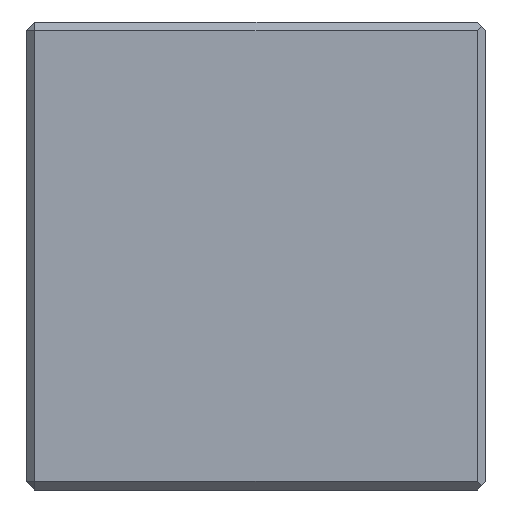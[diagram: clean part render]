
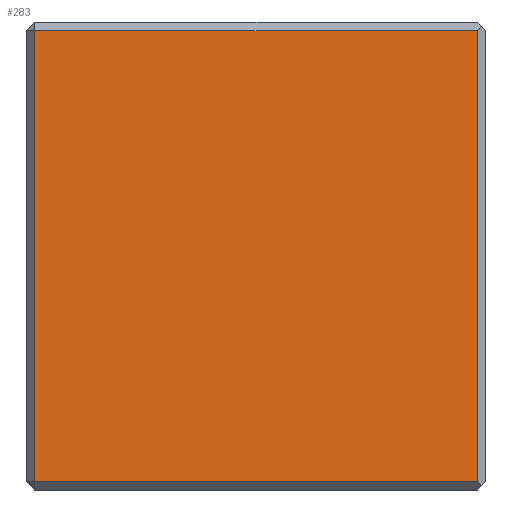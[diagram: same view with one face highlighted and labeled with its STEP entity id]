
A CAD part, left-side view. The second image highlights one B-rep face of the part: STEP entity #283.
In plain terms, the highlighted planar face has unit normal (-1, 0, 0).
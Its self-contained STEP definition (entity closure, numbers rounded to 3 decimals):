
#160 = VECTOR ( 'NONE', #761, 1000. ) ;
#170 = CARTESIAN_POINT ( 'NONE',  ( -37.5, -25., 27.5 ) ) ;
#229 = PLANE ( 'NONE',  #952 ) ;
#255 = VECTOR ( 'NONE', #940, 1000. ) ;
#283 = ADVANCED_FACE ( 'NONE', ( #988 ), #229, .F. ) ;
#317 = VERTEX_POINT ( 'NONE', #472 ) ;
#472 = CARTESIAN_POINT ( 'NONE',  ( -37.5, -25., -26.5 ) ) ;
#535 = CARTESIAN_POINT ( 'NONE',  ( -37.5, 27., 27.5 ) ) ;
#582 = LINE ( 'NONE', #968, #160 ) ;
#584 = CARTESIAN_POINT ( 'NONE',  ( -37.5, 27., -26.5 ) ) ;
#691 = LINE ( 'NONE', #535, #255 ) ;
#722 = ORIENTED_EDGE ( 'NONE', *, *, #1593, .T. ) ;
#739 = CARTESIAN_POINT ( 'NONE',  ( -37.5, 28., 26.5 ) ) ;
#761 = DIRECTION ( 'NONE',  ( 0., -1., 0. ) ) ;
#826 = ORIENTED_EDGE ( 'NONE', *, *, #2019, .T. ) ;
#902 = EDGE_CURVE ( 'NONE', #1446, #1561, #691, .T. ) ;
#940 = DIRECTION ( 'NONE',  ( 0., 0., -1. ) ) ;
#949 = LINE ( 'NONE', #739, #1757 ) ;
#952 = AXIS2_PLACEMENT_3D ( 'NONE', #2013, #1426, #1306 ) ;
#968 = CARTESIAN_POINT ( 'NONE',  ( -37.5, 28., -26.5 ) ) ;
#988 = FACE_OUTER_BOUND ( 'NONE', #1885, .T. ) ;
#1042 = CARTESIAN_POINT ( 'NONE',  ( -37.5, 27., 26.5 ) ) ;
#1126 = ORIENTED_EDGE ( 'NONE', *, *, #1558, .T. ) ;
#1166 = DIRECTION ( 'NONE',  ( 0., 0., 1. ) ) ;
#1259 = VECTOR ( 'NONE', #1166, 1000. ) ;
#1306 = DIRECTION ( 'NONE',  ( 0., 1., 0. ) ) ;
#1426 = DIRECTION ( 'NONE',  ( 1., 0., 0. ) ) ;
#1446 = VERTEX_POINT ( 'NONE', #1042 ) ;
#1558 = EDGE_CURVE ( 'NONE', #1567, #1446, #949, .T. ) ;
#1561 = VERTEX_POINT ( 'NONE', #584 ) ;
#1567 = VERTEX_POINT ( 'NONE', #1584 ) ;
#1584 = CARTESIAN_POINT ( 'NONE',  ( -37.5, -25., 26.5 ) ) ;
#1593 = EDGE_CURVE ( 'NONE', #317, #1567, #1609, .T. ) ;
#1609 = LINE ( 'NONE', #170, #1259 ) ;
#1747 = DIRECTION ( 'NONE',  ( 0., 1., 0. ) ) ;
#1757 = VECTOR ( 'NONE', #1747, 1000. ) ;
#1885 = EDGE_LOOP ( 'NONE', ( #826, #722, #1126, #1987 ) ) ;
#1987 = ORIENTED_EDGE ( 'NONE', *, *, #902, .T. ) ;
#2013 = CARTESIAN_POINT ( 'NONE',  ( -37.5, 28., 27.5 ) ) ;
#2019 = EDGE_CURVE ( 'NONE', #1561, #317, #582, .T. ) ;
